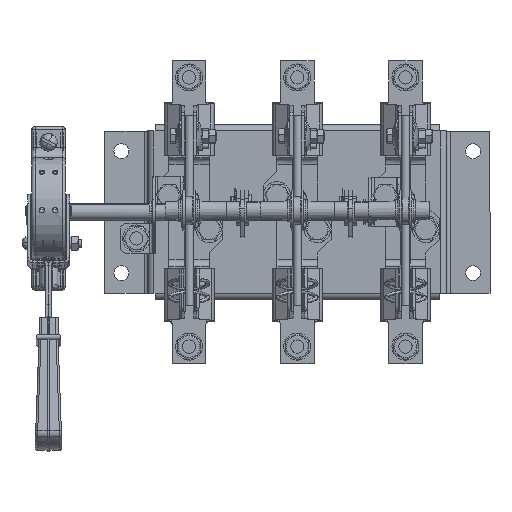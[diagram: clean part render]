
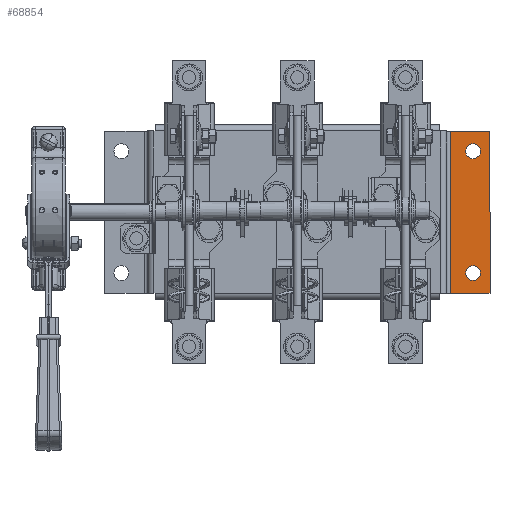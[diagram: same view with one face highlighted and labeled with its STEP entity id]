
A CAD part, top view. The second image highlights one B-rep face of the part: STEP entity #68854.
In plain terms, the highlighted planar face has unit normal (0, 0, 1).
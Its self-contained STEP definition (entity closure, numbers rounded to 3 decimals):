
#658 = DIRECTION ( 'NONE',  ( 0., -1., 0. ) ) ;
#1181 = EDGE_CURVE ( 'NONE', #76023, #80798, #80539, .T. ) ;
#2463 = CARTESIAN_POINT ( 'NONE',  ( -170.38, -60., -16. ) ) ;
#3862 = EDGE_LOOP ( 'NONE', ( #47429, #43415, #102236, #117971 ) ) ;
#8178 = AXIS2_PLACEMENT_3D ( 'NONE', #47144, #114001, #95667 ) ;
#8940 = DIRECTION ( 'NONE',  ( 0., 0., -1. ) ) ;
#8971 = CARTESIAN_POINT ( 'NONE',  ( 113., -60., -16. ) ) ;
#10255 = DIRECTION ( 'NONE',  ( 0., 0., -1. ) ) ;
#12067 = DIRECTION ( 'NONE',  ( 1., 0., 0. ) ) ;
#12938 = CARTESIAN_POINT ( 'NONE',  ( 142.5, 60., -16. ) ) ;
#14804 = EDGE_CURVE ( 'NONE', #44359, #102024, #43830, .T. ) ;
#16618 = ORIENTED_EDGE ( 'NONE', *, *, #17680, .T. ) ;
#17680 = EDGE_CURVE ( 'NONE', #102024, #44359, #18854, .T. ) ;
#18854 = CIRCLE ( 'NONE', #8178, 5.5 ) ;
#18881 = VERTEX_POINT ( 'NONE', #69871 ) ;
#19771 = ORIENTED_EDGE ( 'NONE', *, *, #14804, .T. ) ;
#21788 = FACE_BOUND ( 'NONE', #58717, .T. ) ;
#23111 = CIRCLE ( 'NONE', #45874, 5.5 ) ;
#24718 = CARTESIAN_POINT ( 'NONE',  ( -170.38, -60., -16. ) ) ;
#26284 = CARTESIAN_POINT ( 'NONE',  ( 124.5, 45., -16. ) ) ;
#26696 = AXIS2_PLACEMENT_3D ( 'NONE', #122240, #8940, #55356 ) ;
#28241 = LINE ( 'NONE', #12938, #79275 ) ;
#28340 = CARTESIAN_POINT ( 'NONE',  ( 135.5, 45., -16. ) ) ;
#31035 = CARTESIAN_POINT ( 'NONE',  ( 142.5, -60., -16. ) ) ;
#31218 = CARTESIAN_POINT ( 'NONE',  ( 113., 60., -16. ) ) ;
#32612 = VERTEX_POINT ( 'NONE', #31218 ) ;
#33394 = EDGE_CURVE ( 'NONE', #18881, #92058, #52718, .T. ) ;
#35137 = DIRECTION ( 'NONE',  ( 1., 0., 0. ) ) ;
#38440 = LINE ( 'NONE', #62751, #83421 ) ;
#43415 = ORIENTED_EDGE ( 'NONE', *, *, #57485, .T. ) ;
#43830 = CIRCLE ( 'NONE', #66264, 5.5 ) ;
#44359 = VERTEX_POINT ( 'NONE', #28340 ) ;
#45681 = EDGE_LOOP ( 'NONE', ( #80089, #52701 ) ) ;
#45874 = AXIS2_PLACEMENT_3D ( 'NONE', #113848, #123917, #83950 ) ;
#47144 = CARTESIAN_POINT ( 'NONE',  ( 130., 45., -16. ) ) ;
#47429 = ORIENTED_EDGE ( 'NONE', *, *, #97694, .T. ) ;
#48302 = CARTESIAN_POINT ( 'NONE',  ( 130., 45., -16. ) ) ;
#50217 = FACE_BOUND ( 'NONE', #45681, .T. ) ;
#52701 = ORIENTED_EDGE ( 'NONE', *, *, #33394, .T. ) ;
#52718 = CIRCLE ( 'NONE', #26696, 5.5 ) ;
#52930 = CARTESIAN_POINT ( 'NONE',  ( 135.5, -45., -16. ) ) ;
#53255 = FACE_OUTER_BOUND ( 'NONE', #3862, .T. ) ;
#55356 = DIRECTION ( 'NONE',  ( 0., -1., 0. ) ) ;
#57485 = EDGE_CURVE ( 'NONE', #32612, #76023, #74939, .T. ) ;
#58717 = EDGE_LOOP ( 'NONE', ( #19771, #16618 ) ) ;
#62751 = CARTESIAN_POINT ( 'NONE',  ( -170.38, 60., -16. ) ) ;
#62827 = PLANE ( 'NONE',  #95083 ) ;
#66264 = AXIS2_PLACEMENT_3D ( 'NONE', #48302, #10255, #658 ) ;
#68854 = ADVANCED_FACE ( 'NONE', ( #21788, #53255, #50217 ), #62827, .T. ) ;
#69871 = CARTESIAN_POINT ( 'NONE',  ( 124.5, -45., -16. ) ) ;
#73829 = CARTESIAN_POINT ( 'NONE',  ( 142.5, 60., -16. ) ) ;
#74939 = LINE ( 'NONE', #8971, #100239 ) ;
#76023 = VERTEX_POINT ( 'NONE', #109517 ) ;
#79275 = VECTOR ( 'NONE', #90348, 1000. ) ;
#80089 = ORIENTED_EDGE ( 'NONE', *, *, #84252, .T. ) ;
#80539 = LINE ( 'NONE', #2463, #102836 ) ;
#80798 = VERTEX_POINT ( 'NONE', #31035 ) ;
#83421 = VECTOR ( 'NONE', #90819, 1000. ) ;
#83950 = DIRECTION ( 'NONE',  ( 0., -1., 0. ) ) ;
#84252 = EDGE_CURVE ( 'NONE', #92058, #18881, #23111, .T. ) ;
#86670 = VERTEX_POINT ( 'NONE', #73829 ) ;
#90348 = DIRECTION ( 'NONE',  ( 0., 1., 0. ) ) ;
#90819 = DIRECTION ( 'NONE',  ( -1., 0., 0. ) ) ;
#92058 = VERTEX_POINT ( 'NONE', #52930 ) ;
#92108 = DIRECTION ( 'NONE',  ( 0., 0., 1. ) ) ;
#94719 = DIRECTION ( 'NONE',  ( 0., -1., 0. ) ) ;
#95083 = AXIS2_PLACEMENT_3D ( 'NONE', #24718, #92108, #35137 ) ;
#95667 = DIRECTION ( 'NONE',  ( 0., -1., 0. ) ) ;
#97694 = EDGE_CURVE ( 'NONE', #86670, #32612, #38440, .T. ) ;
#100239 = VECTOR ( 'NONE', #94719, 1000. ) ;
#102024 = VERTEX_POINT ( 'NONE', #26284 ) ;
#102236 = ORIENTED_EDGE ( 'NONE', *, *, #1181, .T. ) ;
#102836 = VECTOR ( 'NONE', #12067, 1000. ) ;
#109517 = CARTESIAN_POINT ( 'NONE',  ( 113., -60., -16. ) ) ;
#113848 = CARTESIAN_POINT ( 'NONE',  ( 130., -45., -16. ) ) ;
#114001 = DIRECTION ( 'NONE',  ( 0., 0., -1. ) ) ;
#116032 = EDGE_CURVE ( 'NONE', #80798, #86670, #28241, .T. ) ;
#117971 = ORIENTED_EDGE ( 'NONE', *, *, #116032, .T. ) ;
#122240 = CARTESIAN_POINT ( 'NONE',  ( 130., -45., -16. ) ) ;
#123917 = DIRECTION ( 'NONE',  ( 0., 0., -1. ) ) ;
